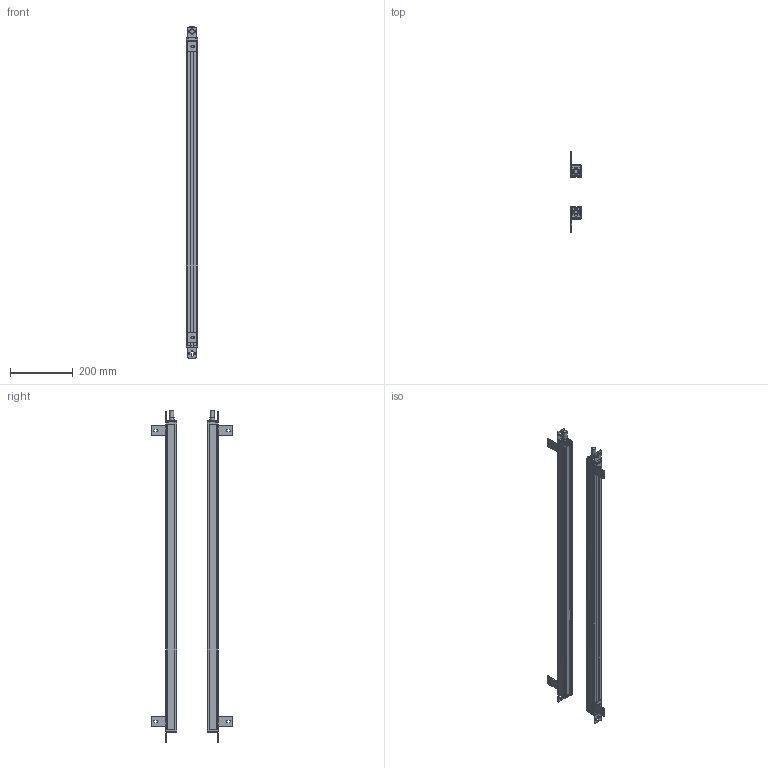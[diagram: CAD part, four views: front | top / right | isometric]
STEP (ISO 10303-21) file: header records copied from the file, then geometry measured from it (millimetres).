
FILE_DESCRIPTION(/* description */ (''),/* implementation_level */ '2;1');
FILE_NAME(/* name */ '2440_35X35.stp',/* time_stamp */ '2023-09-18T15:56:07+08:00',/* author */ (''),/* organization */ (''),/* preprocessor_version */ 'ST-DEVELOPER v16.7',/* originating_system */ 'SIEMENS PLM Software NX 12.0',/* authorisation */ '');
FILE_SCHEMA (('AP203_CONFIGURATION_CONTROLLED_3D_DESIGN_OF_MECHANICAL_PARTS_AND_ASSEMBLIES_MIM_LF { 1 0 10303 403 2 1 2}'));
Length unit declared in the file: millimetre
Products named in the file (1): 2440_35X35_stp
Bounding box: 35.41 x 258.01 x 1061.6 mm (x, y, z)
Volume: 973953.5 mm3; surface area: 734317.2 mm2
Topology: 28 solids, 28 shells, 1182 faces, 3360 edges, 2260 vertices
Faces by surface type: plane 658, cylinder 464, cone 60
Full cylindrical faces by diameter (mm): 3.2 x8, 6 x24, 13 x2, 14.4 x2, 15 x2
Entity records: 39055 total; most frequent: DIRECTION 6832, CARTESIAN_POINT 6745, ORIENTED_EDGE 6612, EDGE_CURVE 3306, AXIS2_PLACEMENT_3D 2347, VERTEX_POINT 2244, LINE 2138, VECTOR 2138
